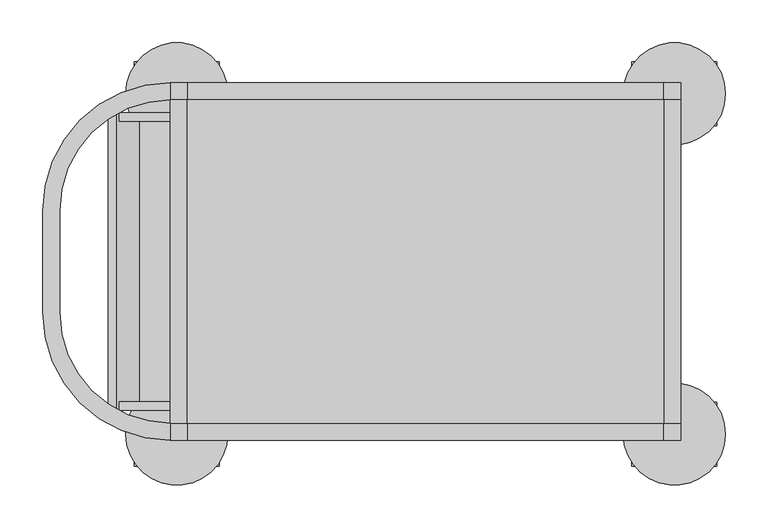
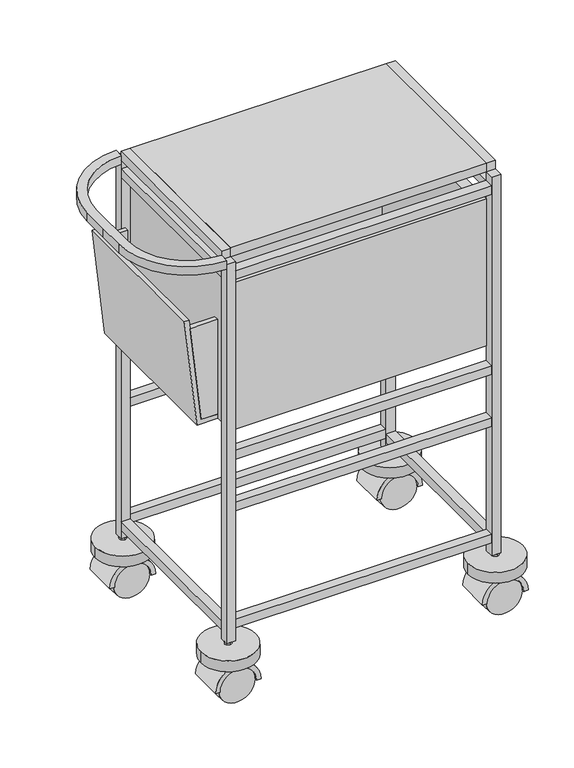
"""IFC4 building model written with IfcOpenShell, lengths in millimetres: furniture geometry, BIMHealth-Trolley_Notes_420x600-LOD2A-v1 : BIMHealth-Trolley_Notes_420x600-LOD2A-v1."""

from ifc_helpers import new_model, si_unit, point, frame, frame_2d, origin, place, context, project, spatial, polyline, circle_curve, trimmed, segment, composite_curve, outline, extrude, faceted_brep, source, transform, mapped, element, save


def furniture_3911303b(model_context):
    return source(origin(), model_context, "Body", "SolidModel", [
        extrude(outline(composite_curve([segment(trimmed(circle_curve(frame_2d((217.5, -202.5)), 7.5), [point((217.5, -195.0))], [point((217.5, -210.0))], False, "CARTESIAN"), True, "CONTINUOUS"), segment(trimmed(circle_curve(frame_2d((217.5, -202.5)), 7.5), [point((217.5, -210.0))], [point((217.5, -195.0))], False, "CARTESIAN"), True, "CONTINUOUS")], self_intersect=False)), frame((0.0, 0.0, 103.9585154), z_axis=(0.0, 0.0, 1.0), x_axis=(1.0, 0.0, 0.0)), (0.0, 0.0, 1.0), 20.0),
        extrude(outline(composite_curve([segment(polyline([(103.9585154, 188.2435995), (82.2280438, 188.2435995)]), True, "CONTINUOUS"), segment(trimmed(circle_curve(frame_2d((41.6809967, 217.5)), 50.0), [point((82.2280438, 188.2435995))], [point((82.2280438, 246.7564005))], True, "CARTESIAN"), True, "CONTINUOUS"), segment(polyline([(82.2280438, 246.7564005), (103.9585154, 246.7564005), (103.9585154, 188.2435995)]), True, "CONTINUOUS")], self_intersect=False)), frame((0.0, -225.1256637, 0.0), z_axis=(0.0, 1.0, 0.0), x_axis=(0.0, 0.0, 1.0)), (0.0, 0.0, 1.0), 45.2513275),
        extrude(outline(composite_curve([segment(trimmed(circle_curve(frame_2d((41.6809967, 217.5)), 40.0), [point((41.6809967, 177.5))], [point((41.6809967, 257.5))], True, "CARTESIAN"), True, "CONTINUOUS"), segment(polyline([(41.6809967, 257.5), (41.6809967, 267.5)]), True, "CONTINUOUS"), segment(trimmed(circle_curve(frame_2d((41.6809967, 217.5)), 50.0), [point((41.6809967, 267.5))], [point((41.6809967, 167.5))], False, "CARTESIAN"), True, "CONTINUOUS"), segment(polyline([(41.6809967, 167.5), (41.6809967, 177.5)]), True, "CONTINUOUS")], self_intersect=False)), frame((0.0, -240.2936384, 0.0), z_axis=(0.0, 1.0, 0.0), x_axis=(0.0, 0.0, 1.0)), (0.0, 0.0, 1.0), 75.0),
        extrude(outline(composite_curve([segment(trimmed(circle_curve(frame_2d((41.6809967, 217.5)), 40.0), [point((41.6809967, 257.5))], [point((41.6809967, 177.5))], False, "CARTESIAN"), True, "CONTINUOUS"), segment(trimmed(circle_curve(frame_2d((41.6809967, 217.5)), 40.0), [point((41.6809967, 177.5))], [point((41.6809967, 257.5))], False, "CARTESIAN"), True, "CONTINUOUS")], self_intersect=False)), frame((0.0, -235.2936384, 0.0), z_axis=(0.0, 1.0, 0.0), x_axis=(0.0, 0.0, 1.0)), (0.0, 0.0, 1.0), 20.0),
        extrude(outline(composite_curve([segment(trimmed(circle_curve(frame_2d((41.6809967, 217.5)), 40.0), [point((41.6809967, 257.5))], [point((41.6809967, 177.5))], False, "CARTESIAN"), True, "CONTINUOUS"), segment(trimmed(circle_curve(frame_2d((41.6809967, 217.5)), 40.0), [point((41.6809967, 177.5))], [point((41.6809967, 257.5))], False, "CARTESIAN"), True, "CONTINUOUS")], self_intersect=False)), frame((0.0, -190.2936384, 0.0), z_axis=(0.0, 1.0, 0.0), x_axis=(0.0, 0.0, 1.0)), (0.0, 0.0, 1.0), 20.0),
        extrude(outline(composite_curve([segment(trimmed(circle_curve(frame_2d((-367.2063616, -202.5)), 7.5), [point((-367.2063616, -195.0))], [point((-367.2063616, -210.0))], False, "CARTESIAN"), True, "CONTINUOUS"), segment(trimmed(circle_curve(frame_2d((-367.2063616, -202.5)), 7.5), [point((-367.2063616, -210.0))], [point((-367.2063616, -195.0))], False, "CARTESIAN"), True, "CONTINUOUS")], self_intersect=False)), frame((0.0, 0.0, 103.9585154), z_axis=(0.0, 0.0, 1.0), x_axis=(1.0, 0.0, 0.0)), (0.0, 0.0, 1.0), 20.0),
        extrude(outline(composite_curve([segment(polyline([(103.9585154, -396.4627621), (82.2280438, -396.4627621)]), True, "CONTINUOUS"), segment(trimmed(circle_curve(frame_2d((41.6809967, -367.2063616)), 50.0), [point((82.2280438, -396.4627621))], [point((82.2280438, -337.9499611))], True, "CARTESIAN"), True, "CONTINUOUS"), segment(polyline([(82.2280438, -337.9499611), (103.9585154, -337.9499611), (103.9585154, -396.4627621)]), True, "CONTINUOUS")], self_intersect=False)), frame((0.0, -225.1256637, 0.0), z_axis=(0.0, 1.0, 0.0), x_axis=(0.0, 0.0, 1.0)), (0.0, 0.0, 1.0), 45.2513275),
        extrude(outline(composite_curve([segment(trimmed(circle_curve(frame_2d((41.6809967, -367.2063616)), 40.0), [point((41.6809967, -407.2063616))], [point((41.6809967, -327.2063616))], True, "CARTESIAN"), True, "CONTINUOUS"), segment(polyline([(41.6809967, -327.2063616), (41.6809967, -317.2063616)]), True, "CONTINUOUS"), segment(trimmed(circle_curve(frame_2d((41.6809967, -367.2063616)), 50.0), [point((41.6809967, -317.2063616))], [point((41.6809967, -417.2063616))], False, "CARTESIAN"), True, "CONTINUOUS"), segment(polyline([(41.6809967, -417.2063616), (41.6809967, -407.2063616)]), True, "CONTINUOUS")], self_intersect=False)), frame((0.0, -240.2936384, 0.0), z_axis=(0.0, 1.0, 0.0), x_axis=(0.0, 0.0, 1.0)), (0.0, 0.0, 1.0), 75.0),
        extrude(outline(composite_curve([segment(trimmed(circle_curve(frame_2d((41.6809967, -367.2063616)), 40.0), [point((41.6809967, -327.2063616))], [point((41.6809967, -407.2063616))], False, "CARTESIAN"), True, "CONTINUOUS"), segment(trimmed(circle_curve(frame_2d((41.6809967, -367.2063616)), 40.0), [point((41.6809967, -407.2063616))], [point((41.6809967, -327.2063616))], False, "CARTESIAN"), True, "CONTINUOUS")], self_intersect=False)), frame((0.0, -235.2936384, 0.0), z_axis=(0.0, 1.0, 0.0), x_axis=(0.0, 0.0, 1.0)), (0.0, 0.0, 1.0), 20.0),
        extrude(outline(composite_curve([segment(trimmed(circle_curve(frame_2d((41.6809967, -367.2063616)), 40.0), [point((41.6809967, -327.2063616))], [point((41.6809967, -407.2063616))], False, "CARTESIAN"), True, "CONTINUOUS"), segment(trimmed(circle_curve(frame_2d((41.6809967, -367.2063616)), 40.0), [point((41.6809967, -407.2063616))], [point((41.6809967, -327.2063616))], False, "CARTESIAN"), True, "CONTINUOUS")], self_intersect=False)), frame((0.0, -190.2936384, 0.0), z_axis=(0.0, 1.0, 0.0), x_axis=(0.0, 0.0, 1.0)), (0.0, 0.0, 1.0), 20.0),
        extrude(outline(composite_curve([segment(trimmed(circle_curve(frame_2d((217.5, 197.5)), 7.5), [point((217.5, 205.0))], [point((217.5, 190.0))], False, "CARTESIAN"), True, "CONTINUOUS"), segment(trimmed(circle_curve(frame_2d((217.5, 197.5)), 7.5), [point((217.5, 190.0))], [point((217.5, 205.0))], False, "CARTESIAN"), True, "CONTINUOUS")], self_intersect=False)), frame((0.0, 0.0, 103.9585154), z_axis=(0.0, 0.0, 1.0), x_axis=(1.0, 0.0, 0.0)), (0.0, 0.0, 1.0), 20.0),
        extrude(outline(composite_curve([segment(polyline([(103.9585154, 188.2435995), (82.2280438, 188.2435995)]), True, "CONTINUOUS"), segment(trimmed(circle_curve(frame_2d((41.6809967, 217.5)), 50.0), [point((82.2280438, 188.2435995))], [point((82.2280438, 246.7564005))], True, "CARTESIAN"), True, "CONTINUOUS"), segment(polyline([(82.2280438, 246.7564005), (103.9585154, 246.7564005), (103.9585154, 188.2435995)]), True, "CONTINUOUS")], self_intersect=False)), frame((0.0, 174.8743363, 0.0), z_axis=(0.0, 1.0, 0.0), x_axis=(0.0, 0.0, 1.0)), (0.0, 0.0, 1.0), 45.2513275),
        extrude(outline(composite_curve([segment(trimmed(circle_curve(frame_2d((41.6809967, 217.5)), 40.0), [point((41.6809967, 177.5))], [point((41.6809967, 257.5))], True, "CARTESIAN"), True, "CONTINUOUS"), segment(polyline([(41.6809967, 257.5), (41.6809967, 267.5)]), True, "CONTINUOUS"), segment(trimmed(circle_curve(frame_2d((41.6809967, 217.5)), 50.0), [point((41.6809967, 267.5))], [point((41.6809967, 167.5))], False, "CARTESIAN"), True, "CONTINUOUS"), segment(polyline([(41.6809967, 167.5), (41.6809967, 177.5)]), True, "CONTINUOUS")], self_intersect=False)), frame((0.0, 159.7063616, 0.0), z_axis=(0.0, 1.0, 0.0), x_axis=(0.0, 0.0, 1.0)), (0.0, 0.0, 1.0), 75.0),
        extrude(outline(composite_curve([segment(trimmed(circle_curve(frame_2d((41.6809967, 217.5)), 40.0), [point((41.6809967, 257.5))], [point((41.6809967, 177.5))], False, "CARTESIAN"), True, "CONTINUOUS"), segment(trimmed(circle_curve(frame_2d((41.6809967, 217.5)), 40.0), [point((41.6809967, 177.5))], [point((41.6809967, 257.5))], False, "CARTESIAN"), True, "CONTINUOUS")], self_intersect=False)), frame((0.0, 164.7063616, 0.0), z_axis=(0.0, 1.0, 0.0), x_axis=(0.0, 0.0, 1.0)), (0.0, 0.0, 1.0), 20.0),
        extrude(outline(composite_curve([segment(trimmed(circle_curve(frame_2d((41.6809967, 217.5)), 40.0), [point((41.6809967, 257.5))], [point((41.6809967, 177.5))], False, "CARTESIAN"), True, "CONTINUOUS"), segment(trimmed(circle_curve(frame_2d((41.6809967, 217.5)), 40.0), [point((41.6809967, 177.5))], [point((41.6809967, 257.5))], False, "CARTESIAN"), True, "CONTINUOUS")], self_intersect=False)), frame((0.0, 209.7063616, 0.0), z_axis=(0.0, 1.0, 0.0), x_axis=(0.0, 0.0, 1.0)), (0.0, 0.0, 1.0), 20.0),
        extrude(outline(composite_curve([segment(trimmed(circle_curve(frame_2d((-367.2063616, 197.5)), 7.5), [point((-367.2063616, 205.0))], [point((-367.2063616, 190.0))], False, "CARTESIAN"), True, "CONTINUOUS"), segment(trimmed(circle_curve(frame_2d((-367.2063616, 197.5)), 7.5), [point((-367.2063616, 190.0))], [point((-367.2063616, 205.0))], False, "CARTESIAN"), True, "CONTINUOUS")], self_intersect=False)), frame((0.0, 0.0, 103.9585154), z_axis=(0.0, 0.0, 1.0), x_axis=(1.0, 0.0, 0.0)), (0.0, 0.0, 1.0), 20.0),
        extrude(outline(composite_curve([segment(polyline([(103.9585154, -396.4627621), (82.2280438, -396.4627621)]), True, "CONTINUOUS"), segment(trimmed(circle_curve(frame_2d((41.6809967, -367.2063616)), 50.0), [point((82.2280438, -396.4627621))], [point((82.2280438, -337.9499611))], True, "CARTESIAN"), True, "CONTINUOUS"), segment(polyline([(82.2280438, -337.9499611), (103.9585154, -337.9499611), (103.9585154, -396.4627621)]), True, "CONTINUOUS")], self_intersect=False)), frame((0.0, 174.8743363, 0.0), z_axis=(0.0, 1.0, 0.0), x_axis=(0.0, 0.0, 1.0)), (0.0, 0.0, 1.0), 45.2513275),
        extrude(outline(composite_curve([segment(trimmed(circle_curve(frame_2d((41.6809967, -367.2063616)), 40.0), [point((41.6809967, -407.2063616))], [point((41.6809967, -327.2063616))], True, "CARTESIAN"), True, "CONTINUOUS"), segment(polyline([(41.6809967, -327.2063616), (41.6809967, -317.2063616)]), True, "CONTINUOUS"), segment(trimmed(circle_curve(frame_2d((41.6809967, -367.2063616)), 50.0), [point((41.6809967, -317.2063616))], [point((41.6809967, -417.2063616))], False, "CARTESIAN"), True, "CONTINUOUS"), segment(polyline([(41.6809967, -417.2063616), (41.6809967, -407.2063616)]), True, "CONTINUOUS")], self_intersect=False)), frame((0.0, 159.7063616, 0.0), z_axis=(0.0, 1.0, 0.0), x_axis=(0.0, 0.0, 1.0)), (0.0, 0.0, 1.0), 75.0),
        extrude(outline(composite_curve([segment(trimmed(circle_curve(frame_2d((41.6809967, -367.2063616)), 40.0), [point((41.6809967, -327.2063616))], [point((41.6809967, -407.2063616))], False, "CARTESIAN"), True, "CONTINUOUS"), segment(trimmed(circle_curve(frame_2d((41.6809967, -367.2063616)), 40.0), [point((41.6809967, -407.2063616))], [point((41.6809967, -327.2063616))], False, "CARTESIAN"), True, "CONTINUOUS")], self_intersect=False)), frame((0.0, 164.7063616, 0.0), z_axis=(0.0, 1.0, 0.0), x_axis=(0.0, 0.0, 1.0)), (0.0, 0.0, 1.0), 20.0),
        extrude(outline(composite_curve([segment(trimmed(circle_curve(frame_2d((41.6809967, -367.2063616)), 40.0), [point((41.6809967, -327.2063616))], [point((41.6809967, -407.2063616))], False, "CARTESIAN"), True, "CONTINUOUS"), segment(trimmed(circle_curve(frame_2d((41.6809967, -367.2063616)), 40.0), [point((41.6809967, -407.2063616))], [point((41.6809967, -327.2063616))], False, "CARTESIAN"), True, "CONTINUOUS")], self_intersect=False)), frame((0.0, 209.7063616, 0.0), z_axis=(0.0, 1.0, 0.0), x_axis=(0.0, 0.0, 1.0)), (0.0, 0.0, 1.0), 20.0),
        faceted_brep([(205.0, 189.7063616, 937.9170308), (-355.0, 189.7063616, 937.9170308), (-355.0, -190.2936384, 937.9170308), (205.0, -190.2936384, 937.9170308), (-335.0, -170.2936384, 937.9170308), (-335.0, 164.7063616, 937.9170308), (181.3421534, 164.7063616, 937.9170308), (181.3421534, -170.2936384, 937.9170308), (205.0, 189.7063616, 597.9170308), (-355.0, 189.7063616, 597.9170308), (-355.0, -190.2936384, 597.9170308), (205.0, -190.2936384, 597.9170308), (-335.0, -170.2936384, 617.9170308), (-335.0, 164.7063616, 617.9170308), (181.3421534, 164.7063616, 617.9170308), (181.3421534, -170.2936384, 617.9170308)], [[[0, 1, 2, 3], [4, 5, 6, 7]], [[1, 0, 8, 9]], [[2, 1, 9, 10]], [[3, 2, 10, 11]], [[0, 3, 11, 8]], [[5, 4, 12, 13]], [[6, 5, 13, 14]], [[7, 6, 14, 15]], [[4, 7, 15, 12]], [[13, 12, 15, 14]], [[8, 11, 10, 9]]]),
        extrude(outline(composite_curve([segment(trimmed(circle_curve(frame_2d((-375.0, 59.7063616)), 150.0), [point((-525.0, 59.7063616))], [point((-375.0, 209.7063616))], False, "CARTESIAN"), True, "CONTINUOUS"), segment(polyline([(-375.0, 209.7063616), (-375.0, 189.7063616)]), True, "CONTINUOUS"), segment(trimmed(circle_curve(frame_2d((-375.0, 59.7063616)), 130.0), [point((-375.0, 189.7063616))], [point((-505.0, 59.7063616))], True, "CARTESIAN"), True, "CONTINUOUS"), segment(polyline([(-505.0, 59.7063616), (-505.0, -60.0)]), True, "CONTINUOUS"), segment(trimmed(circle_curve(frame_2d((-375.0, -60.0)), 130.0), [point((-505.0, -60.0))], [point((-375.0, -190.0))], True, "CARTESIAN"), True, "CONTINUOUS"), segment(polyline([(-375.0, -190.0), (-375.0, -210.0)]), True, "CONTINUOUS"), segment(trimmed(circle_curve(frame_2d((-375.0, -60.0)), 150.0), [point((-375.0, -210.0))], [point((-525.0, -60.0))], False, "CARTESIAN"), True, "CONTINUOUS"), segment(polyline([(-525.0, -60.0), (-525.0, 0.0), (-525.0, 59.7063616)]), True, "CONTINUOUS")], self_intersect=False)), frame((0.0, 0.0, 990.0), z_axis=(0.0, 0.0, 1.0), x_axis=(1.0, 0.0, 0.0)), (0.0, 0.0, 1.0), 20.0),
        extrude(outline(polyline([(225.0, -190.0), (225.0, -210.0), (205.0, -210.0), (205.0, -190.0), (225.0, -190.0)])), frame((0.0, 0.0, 123.9585154), z_axis=(0.0, 0.0, 1.0), x_axis=(1.0, 0.0, 0.0)), (0.0, 0.0, 1.0), 876.0414846),
        extrude(outline(polyline([(-355.0, -210.0), (-375.0, -210.0), (-375.0, -190.0), (-355.0, -190.0), (-355.0, -210.0)])), frame((0.0, 0.0, 123.9585154), z_axis=(0.0, 0.0, 1.0), x_axis=(1.0, 0.0, 0.0)), (0.0, 0.0, 1.0), 876.0414846),
        extrude(outline(polyline([(-355.0, 209.7063616), (-355.0, 189.7063616), (-375.0, 189.7063616), (-375.0, 209.7063616), (-355.0, 209.7063616)])), frame((0.0, 0.0, 123.9585154), z_axis=(0.0, 0.0, 1.0), x_axis=(1.0, 0.0, 0.0)), (0.0, 0.0, 1.0), 876.0414846),
        extrude(outline(polyline([(225.0, 209.7063616), (225.0, 189.7063616), (205.0, 189.7063616), (205.0, 209.7063616), (225.0, 209.7063616)])), frame((0.0, 0.0, 123.9585154), z_axis=(0.0, 0.0, 1.0), x_axis=(1.0, 0.0, 0.0)), (0.0, 0.0, 1.0), 876.0414846),
        extrude(outline(polyline([(205.0, -190.0), (-355.0, -190.0), (-355.0, 189.7063616), (205.0, 189.7063616), (205.0, -190.0)])), frame((0.0, 0.0, 1000.0), z_axis=(0.0, 0.0, 1.0), x_axis=(1.0, 0.0, 0.0)), (0.0, 0.0, 1.0), 20.0),
        extrude(outline(polyline([(633.9585154, -411.1071418), (633.9585154, -375.0), (852.6224464, -375.0), (852.6224464, -435.3163402), (633.9585154, -411.1071418)])), frame((0.0, 165.0, 0.0), z_axis=(0.0, 1.0, 0.0), x_axis=(0.0, 0.0, 1.0)), (0.0, 0.0, 1.0), 10.0),
        extrude(outline(polyline([(633.9585154, -411.1071418), (633.9585154, -375.0), (852.6224464, -375.0), (852.6224464, -435.3163402), (633.9585154, -411.1071418)])), frame((0.0, -175.0, 0.0), z_axis=(0.0, 1.0, 0.0), x_axis=(0.0, 0.0, 1.0)), (0.0, 0.0, 1.0), 10.0),
        extrude(outline(polyline([(623.9585154, -420.0), (623.9585154, -375.0), (633.9585154, -375.0), (633.9585154, -411.1071418), (872.4402552, -437.5104527), (872.4402552, -447.5104527), (623.9585154, -420.0)])), frame((0.0, -175.0, 0.0), z_axis=(0.0, 1.0, 0.0), x_axis=(0.0, 0.0, 1.0)), (0.0, 0.0, 1.0), 350.0),
        extrude(outline(composite_curve([segment(trimmed(circle_curve(frame_2d((217.5, -202.7936384)), 60.0), [point((157.5, -202.7936384))], [point((277.5, -202.7936384))], False, "CARTESIAN"), True, "CONTINUOUS"), segment(trimmed(circle_curve(frame_2d((217.5, -202.7936384)), 60.0), [point((277.5, -202.7936384))], [point((157.5, -202.7936384))], False, "CARTESIAN"), True, "CONTINUOUS")], self_intersect=False)), frame((0.0, 0.0, 93.9585154), z_axis=(0.0, 0.0, 1.0), x_axis=(1.0, 0.0, 0.0)), (0.0, 0.0, 1.0), 25.0),
        extrude(outline(composite_curve([segment(trimmed(circle_curve(frame_2d((-367.2063616, -202.7936384)), 60.0), [point((-427.2063616, -202.7936384))], [point((-307.2063616, -202.7936384))], False, "CARTESIAN"), True, "CONTINUOUS"), segment(trimmed(circle_curve(frame_2d((-367.2063616, -202.7936384)), 60.0), [point((-307.2063616, -202.7936384))], [point((-427.2063616, -202.7936384))], False, "CARTESIAN"), True, "CONTINUOUS")], self_intersect=False)), frame((0.0, 0.0, 93.9585154), z_axis=(0.0, 0.0, 1.0), x_axis=(1.0, 0.0, 0.0)), (0.0, 0.0, 1.0), 25.0),
        extrude(outline(composite_curve([segment(trimmed(circle_curve(frame_2d((217.5, 197.2063616)), 60.0), [point((157.5, 197.2063616))], [point((277.5, 197.2063616))], False, "CARTESIAN"), True, "CONTINUOUS"), segment(trimmed(circle_curve(frame_2d((217.5, 197.2063616)), 60.0), [point((277.5, 197.2063616))], [point((157.5, 197.2063616))], False, "CARTESIAN"), True, "CONTINUOUS")], self_intersect=False)), frame((0.0, 0.0, 93.9585154), z_axis=(0.0, 0.0, 1.0), x_axis=(1.0, 0.0, 0.0)), (0.0, 0.0, 1.0), 25.0),
        extrude(outline(composite_curve([segment(trimmed(circle_curve(frame_2d((-367.2063616, 197.2063616)), 60.0), [point((-427.2063616, 197.2063616))], [point((-307.2063616, 197.2063616))], False, "CARTESIAN"), True, "CONTINUOUS"), segment(trimmed(circle_curve(frame_2d((-367.2063616, 197.2063616)), 60.0), [point((-307.2063616, 197.2063616))], [point((-427.2063616, 197.2063616))], False, "CARTESIAN"), True, "CONTINUOUS")], self_intersect=False)), frame((0.0, 0.0, 93.9585154), z_axis=(0.0, 0.0, 1.0), x_axis=(1.0, 0.0, 0.0)), (0.0, 0.0, 1.0), 25.0),
        extrude(outline(polyline([(225.0, 189.7063616), (225.0, -190.2936384), (205.0, -190.2936384), (205.0, 189.7063616), (225.0, 189.7063616)])), frame((0.0, 0.0, 1000.0), z_axis=(0.0, 0.0, 1.0), x_axis=(1.0, 0.0, 0.0)), (0.0, 0.0, 1.0), 20.0),
        extrude(outline(polyline([(-355.0, 189.7063616), (-355.0, -190.2936384), (-375.0, -190.2936384), (-375.0, 189.7063616), (-355.0, 189.7063616)])), frame((0.0, 0.0, 1000.0), z_axis=(0.0, 0.0, 1.0), x_axis=(1.0, 0.0, 0.0)), (0.0, 0.0, 1.0), 20.0),
        extrude(outline(polyline([(205.0, -210.0), (-355.0, -210.0), (-355.0, -190.0), (205.0, -190.0), (205.0, -210.0)])), frame((0.0, 0.0, 960.0), z_axis=(0.0, 0.0, 1.0), x_axis=(1.0, 0.0, 0.0)), (0.0, 0.0, 1.0), 20.0),
        extrude(outline(polyline([(205.0, 189.7063616), (-355.0, 189.7063616), (-355.0, 209.7063616), (205.0, 209.7063616), (205.0, 189.7063616)])), frame((0.0, 0.0, 960.0), z_axis=(0.0, 0.0, 1.0), x_axis=(1.0, 0.0, 0.0)), (0.0, 0.0, 1.0), 20.0),
        extrude(outline(polyline([(225.0, 189.7063616), (225.0, -190.2936384), (205.0, -190.2936384), (205.0, 189.7063616), (225.0, 189.7063616)])), frame((0.0, 0.0, 960.0), z_axis=(0.0, 0.0, 1.0), x_axis=(1.0, 0.0, 0.0)), (0.0, 0.0, 1.0), 20.0),
        extrude(outline(polyline([(-355.0, 189.7063616), (-355.0, -190.2936384), (-375.0, -190.2936384), (-375.0, 189.7063616), (-355.0, 189.7063616)])), frame((0.0, 0.0, 960.0), z_axis=(0.0, 0.0, 1.0), x_axis=(1.0, 0.0, 0.0)), (0.0, 0.0, 1.0), 20.0),
        extrude(outline(polyline([(225.0, 189.7063616), (225.0, -190.0), (205.0, -190.0), (205.0, 189.7063616), (225.0, 189.7063616)])), frame((0.0, 0.0, 143.9585154), z_axis=(0.0, 0.0, 1.0), x_axis=(1.0, 0.0, 0.0)), (0.0, 0.0, 1.0), 20.0),
        extrude(outline(polyline([(-355.0, 189.7063616), (-355.0, -190.0), (-375.0, -190.0), (-375.0, 189.7063616), (-355.0, 189.7063616)])), frame((0.0, 0.0, 143.9585154), z_axis=(0.0, 0.0, 1.0), x_axis=(1.0, 0.0, 0.0)), (0.0, 0.0, 1.0), 20.0),
        extrude(outline(polyline([(205.0, 189.7063616), (-355.0, 189.7063616), (-355.0, 209.7063616), (205.0, 209.7063616), (205.0, 189.7063616)])), frame((0.0, 0.0, 153.9585154), z_axis=(0.0, 0.0, 1.0), x_axis=(1.0, 0.0, 0.0)), (0.0, 0.0, 1.0), 20.0),
        extrude(outline(polyline([(205.0, 189.7063616), (-355.0, 189.7063616), (-355.0, 209.7063616), (205.0, 209.7063616), (205.0, 189.7063616)])), frame((0.0, 0.0, 423.9585154), z_axis=(0.0, 0.0, 1.0), x_axis=(1.0, 0.0, 0.0)), (0.0, 0.0, 1.0), 20.0),
        extrude(outline(polyline([(205.0, 189.7063616), (-355.0, 189.7063616), (-355.0, 209.7063616), (205.0, 209.7063616), (205.0, 189.7063616)])), frame((0.0, 0.0, 543.9585154), z_axis=(0.0, 0.0, 1.0), x_axis=(1.0, 0.0, 0.0)), (0.0, 0.0, 1.0), 20.0),
        extrude(outline(polyline([(205.0, -210.0), (-355.0, -210.0), (-355.0, -190.0), (205.0, -190.0), (205.0, -210.0)])), frame((0.0, 0.0, 153.9585154), z_axis=(0.0, 0.0, 1.0), x_axis=(1.0, 0.0, 0.0)), (0.0, 0.0, 1.0), 20.0),
        extrude(outline(polyline([(205.0, -210.0), (-355.0, -210.0), (-355.0, -190.0), (205.0, -190.0), (205.0, -210.0)])), frame((0.0, 0.0, 423.9585154), z_axis=(0.0, 0.0, 1.0), x_axis=(1.0, 0.0, 0.0)), (0.0, 0.0, 1.0), 20.0),
        extrude(outline(polyline([(205.0, -210.0), (-355.0, -210.0), (-355.0, -190.0), (205.0, -190.0), (205.0, -210.0)])), frame((0.0, 0.0, 543.9585154), z_axis=(0.0, 0.0, 1.0), x_axis=(1.0, 0.0, 0.0)), (0.0, 0.0, 1.0), 20.0),
    ])


if __name__ == "__main__":
    model = new_model("IFC4")
    model_context = context("Model", 3, world=origin())
    ifc_project = project(units=[si_unit("LENGTHUNIT", "METRE", prefix="MILLI")], contexts=[model_context])
    site = spatial("IfcSite", under=ifc_project)
    building = spatial("IfcBuilding", under=site)
    placement = place(None, origin())
    furniture_shape = furniture_3911303b(model_context)
    element("IfcFurniture", 1, ObjectType="BIMHealth-Trolley_Notes_420x600-LOD2A-v1 : BIMHealth-Trolley_Notes_420x600-LOD2A-v1", at=placement, inside=building, context=model_context, shape_type="MappedRepresentation", body=[
        mapped(furniture_shape, transform((0.0, 0.0, 0.0), x_axis=(1.0, 0.0, 0.0), y_axis=(0.0, 1.0, 0.0), z_axis=(0.0, 0.0, 1.0))),
    ])
    save(model, "model.ifc")
